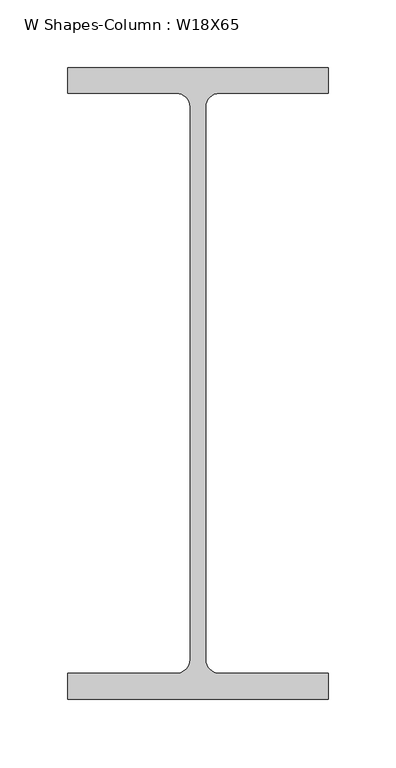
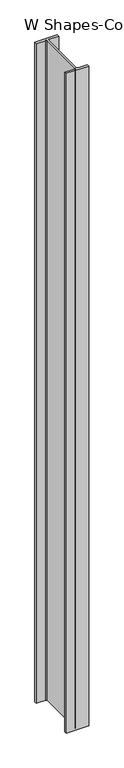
"""IFC4 building model written with IfcOpenShell, lengths in millimetres: column geometry, W Shapes-Column : W18X65."""

from ifc_helpers import new_model, si_unit, point, frame_2d, origin, origin_with_axes, place, context, project, spatial, polyline, circle_curve, trimmed, segment, composite_curve, outline, extrude, source, transform, mapped, element, save


def w_shapes_column_w18x65_76ea03f4(model_context):
    return source(origin(), model_context, "Body", "SweptSolid", [
        extrude(outline(composite_curve([segment(polyline([(96.393, 233.68), (96.393, 214.63), (15.875, 214.63)]), True, "CONTINUOUS"), segment(trimmed(circle_curve(frame_2d((15.875, 204.47)), 10.16), [point((15.875, 214.63))], [point((5.715, 204.47))], True, "CARTESIAN"), True, "CONTINUOUS"), segment(polyline([(5.715, 204.47), (5.715, -204.47)]), True, "CONTINUOUS"), segment(trimmed(circle_curve(frame_2d((15.875, -204.47)), 10.16), [point((5.715, -204.47))], [point((15.875, -214.63))], True, "CARTESIAN"), True, "CONTINUOUS"), segment(polyline([(15.875, -214.63), (96.393, -214.63), (96.393, -233.68), (-96.393, -233.68), (-96.393, -214.63), (-15.875, -214.63)]), True, "CONTINUOUS"), segment(trimmed(circle_curve(frame_2d((-15.875, -204.47)), 10.16), [point((-15.875, -214.63))], [point((-5.715, -204.47))], True, "CARTESIAN"), True, "CONTINUOUS"), segment(polyline([(-5.715, -204.47), (-5.715, 204.47)]), True, "CONTINUOUS"), segment(trimmed(circle_curve(frame_2d((-15.875, 204.47)), 10.16), [point((-5.715, 204.47))], [point((-15.875, 214.63))], True, "CARTESIAN"), True, "CONTINUOUS"), segment(polyline([(-15.875, 214.63), (-96.393, 214.63), (-96.393, 233.68), (96.393, 233.68)]), True, "CONTINUOUS")], self_intersect=False)), origin_with_axes(), (0.0, 0.0, 1.0), 6000.0),
    ])


if __name__ == "__main__":
    model = new_model("IFC4")
    model_context = context("Model", 3, world=origin())
    ifc_project = project(units=[si_unit("LENGTHUNIT", "METRE", prefix="MILLI")], contexts=[model_context])
    site = spatial("IfcSite", under=ifc_project)
    building = spatial("IfcBuilding", under=site)
    placement = place(None, origin())
    w_shapes_column_w18x65_shape = w_shapes_column_w18x65_76ea03f4(model_context)
    element("IfcColumn", 1, ObjectType="W Shapes-Column : W18X65", at=placement, inside=building, context=model_context, shape_type="MappedRepresentation", body=[
        mapped(w_shapes_column_w18x65_shape, transform((0.0, 0.0, 0.0), x_axis=(1.0, 0.0, 0.0), y_axis=(0.0, 1.0, 0.0), z_axis=(0.0, 0.0, 1.0))),
    ])
    save(model, "model.ifc")
